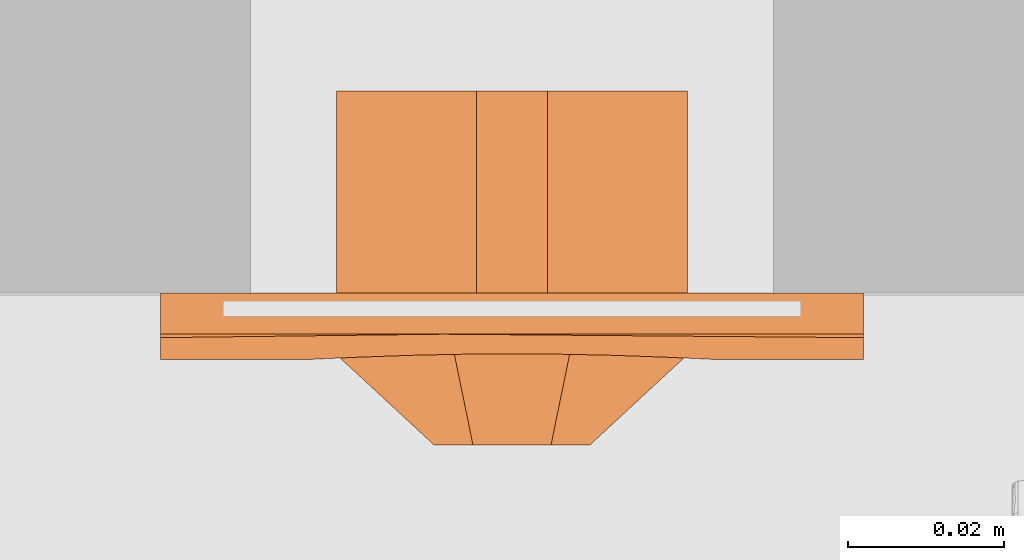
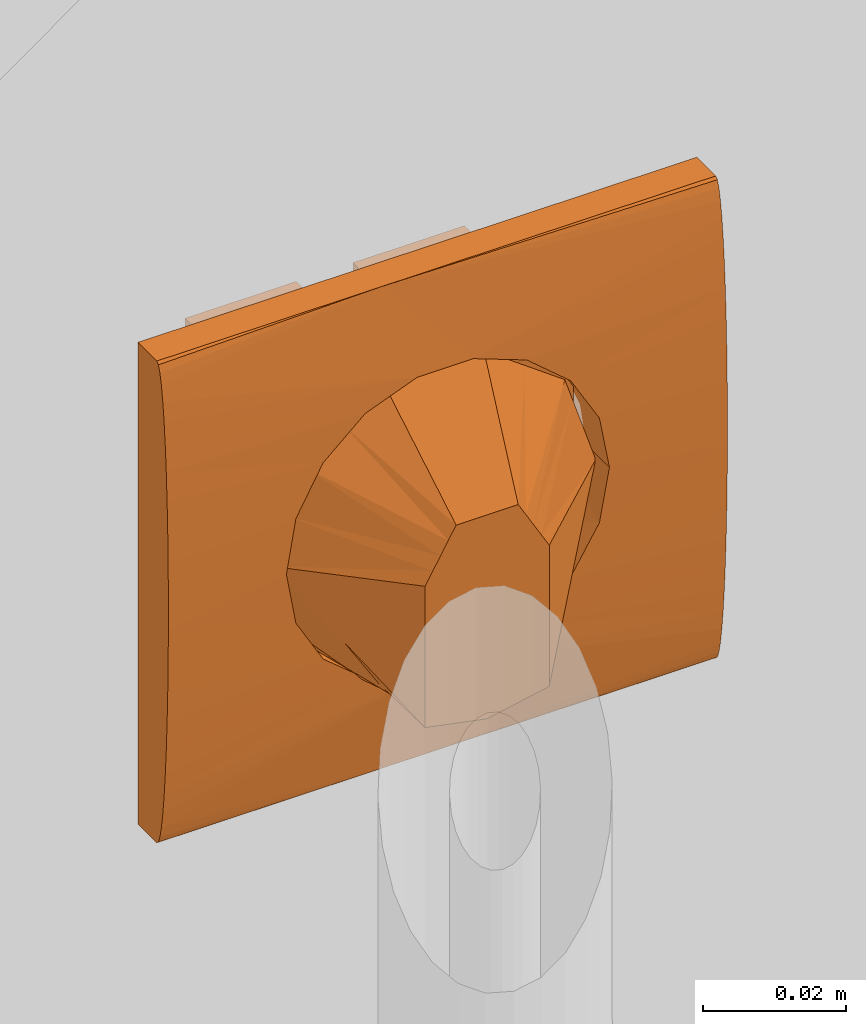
# One storey, part 8 of 8: 2 proxies.
"""IFC2X3 building model written with IfcOpenShell, lengths in metres."""

import ifcopenshell
import ifcopenshell.guid

model = None  # the IFC model being written
_history = None  # IfcOwnerHistory: only IFC2X3 demands one
_inside = {}  # id of a spatial element -> (the spatial element, [elements in it])
_under = {}  # id of a project, library or spatial element -> (it, [spatial elements below it])
_declared = {}  # id of a project -> (the project, [libraries it declares])
_typed = {}  # id of a type object -> (the type object, [elements of that type])
_made_of = {}  # id of a material, layer set ... -> (it, [elements and type objects made of it])


def new_model(schema):
    """Start an empty IFC model of exactly this schema.

    Asked for "IFC4X3", IfcOpenShell would pick the latest addendum, in which some entities
    have other attributes; the version numbers below select the first issue.
    IFC2X3 requires an IfcOwnerHistory on every rooted entity: one is made here for all.
    """
    global model, _history
    if schema == "IFC4X3":
        model = ifcopenshell.file(schema_version=(4, 3, 0, 0))
    else:
        model = ifcopenshell.file(schema=schema)
    _inside.clear()
    _under.clear()
    _declared.clear()
    _typed.clear()
    _made_of.clear()
    _history = None
    if model.schema == "IFC2X3":
        org = make("IfcOrganization", Name="unknown")
        user = make(
            "IfcPersonAndOrganization",
            ThePerson=make("IfcPerson", FamilyName="unknown"),
            TheOrganization=org,
        )
        app = make(
            "IfcApplication",
            ApplicationDeveloper=org,
            Version="unknown",
            ApplicationFullName="unknown",
            ApplicationIdentifier="unknown",
        )
        _history = make(
            "IfcOwnerHistory",
            OwningUser=user,
            OwningApplication=app,
            ChangeAction="ADDED",
            CreationDate=0,
        )
    return model


def make(cls, **values):
    """One entity of the class cls with the attributes given. An attribute that is None is left unset."""
    return model.create_entity(
        cls, **{name: value for name, value in values.items() if value is not None}
    )


def entity(cls, *values):
    """Any entity or typed value of the class cls, its attributes in the order of the schema. None: left unset."""
    e = model.create_entity(cls)
    for i, value in enumerate(values):
        if value is not None:
            e[i] = value
    return e


def rooted(cls, **values):
    """An entity with a GlobalId (a new one), such as an element, a storey or a relation."""
    return make(cls, GlobalId=ifcopenshell.guid.new(), OwnerHistory=_history, **values)


def si_unit(unit_type, name, prefix=None):
    """IfcSIUnit, for example si_unit("LENGTHUNIT", "METRE", prefix="MILLI")."""
    return make("IfcSIUnit", UnitType=unit_type, Prefix=prefix, Name=name)


def converted_unit(unit_type, name, factor, base, dimensions=None, offset=None):
    """IfcConversionBasedUnit, such as the inch: factor (a typed value) times the base unit."""
    return make(
        "IfcConversionBasedUnit"
        if offset is None
        else "IfcConversionBasedUnitWithOffset",
        ConversionOffset=offset,
        Dimensions=None
        if dimensions is None
        else entity("IfcDimensionalExponents", *dimensions),
        UnitType=unit_type,
        Name=name,
        ConversionFactor=make(
            "IfcMeasureWithUnit", ValueComponent=factor, UnitComponent=base
        ),
    )


def derived_unit(unit_type, elements):
    """IfcDerivedUnit: a product of units, each with its exponent."""
    return make(
        "IfcDerivedUnit",
        Elements=[
            make("IfcDerivedUnitElement", Unit=unit, Exponent=power)
            for unit, power in elements
        ],
        UnitType=unit_type,
    )


def assignment(units):
    """IfcUnitAssignment: the units of a project."""
    return None if units is None else make("IfcUnitAssignment", Units=units)


def point(xyz):
    """IfcCartesianPoint."""
    return None if xyz is None else make("IfcCartesianPoint", Coordinates=xyz)


def direction(xyz):
    """IfcDirection."""
    return None if xyz is None else make("IfcDirection", DirectionRatios=xyz)


def frame(location, z_axis=None, x_axis=None):
    """IfcAxis2Placement3D, a coordinate frame: its origin and axes. An axis left out is left unset."""
    return make(
        "IfcAxis2Placement3D",
        Location=point(location),
        Axis=direction(z_axis),
        RefDirection=direction(x_axis),
    )


def origin():
    """The frame at (0, 0, 0) with its axes left unset."""
    return frame((0.0, 0.0, 0.0))


def place(relative_to, where):
    """IfcLocalPlacement: puts the frame where relative to a parent placement (None: the world)."""
    return make(
        "IfcLocalPlacement", PlacementRelTo=relative_to, RelativePlacement=where
    )


def context(
    kind, dimensions, precision=None, world=None, true_north=None, identifier=None
):
    """IfcGeometricRepresentationContext, for example the 3D "Model" context."""
    return make(
        "IfcGeometricRepresentationContext",
        ContextIdentifier=identifier,
        ContextType=kind,
        CoordinateSpaceDimension=dimensions,
        Precision=precision,
        WorldCoordinateSystem=world,
        TrueNorth=true_north,
    )


def subcontext(parent, identifier, kind, view, scale=None):
    """IfcGeometricRepresentationSubContext, for example "Body" below "Model"."""
    return make(
        "IfcGeometricRepresentationSubContext",
        ContextIdentifier=identifier,
        ContextType=kind,
        ParentContext=parent,
        TargetScale=scale,
        TargetView=view,
    )


def project(units=None, contexts=None):
    """IfcProject with its units and contexts."""
    return rooted(
        "IfcProject",
        Name="project",
        RepresentationContexts=contexts,
        UnitsInContext=assignment(units),
    )


def spatial(cls, under=None, at=None, **own):
    """A site, building, storey or space (cls), placed at a placement, below another one or the project."""
    s = rooted(cls, ObjectPlacement=at, **own)
    if under is not None:
        _under.setdefault(under.id(), (under, []))[1].append(s)
    return s


def faces_of(points, faces, orient=None, outer=None):
    """IfcFace entities. A face is a list of loops; a loop is a list of indices into points, from 0.

    orient and outer hold one flag for each loop. By default every Orientation is true, the
    first loop of a face is its IfcFaceOuterBound and the others are IfcFaceBound.
    """
    made = []
    for i, loops in enumerate(faces):
        bounds = []
        for j, loop in enumerate(loops):
            is_outer = j == 0 if outer is None else outer[i][j]
            bounds.append(
                make(
                    "IfcFaceOuterBound" if is_outer else "IfcFaceBound",
                    Bound=make("IfcPolyLoop", Polygon=[points[k] for k in loop]),
                    Orientation=True if orient is None else orient[i][j],
                )
            )
        made.append(make("IfcFace", Bounds=bounds))
    return made


def faceted_brep(points, faces, orient=None, outer=None, voids=None):
    """IfcFacetedBrep: a solid bounded by flat faces; with voids (closed shells), ...WithVoids."""
    shared = [point(p) for p in points]
    hull = make("IfcClosedShell", CfsFaces=faces_of(shared, faces, orient, outer))
    if voids is None:
        return make("IfcFacetedBrep", Outer=hull)
    return make(
        "IfcFacetedBrepWithVoids",
        Outer=hull,
        Voids=[
            make(cls, CfsFaces=faces_of(shared, fs, o, b)) for cls, fs, o, b in voids
        ],
    )


def shape(context_of_items, identifier, shape_type, items):
    """IfcShapeRepresentation: the items that make up one representation, for example the "Body"."""
    return make(
        "IfcShapeRepresentation",
        ContextOfItems=context_of_items,
        RepresentationIdentifier=identifier,
        RepresentationType=shape_type,
        Items=items,
    )


def source(mapping_origin, context_of_items, identifier, shape_type, items):
    """IfcRepresentationMap: a shape defined once, which mapped items show again and again."""
    return make(
        "IfcRepresentationMap",
        MappingOrigin=mapping_origin,
        MappedRepresentation=shape(context_of_items, identifier, shape_type, items),
    )


def transform(
    local_origin,
    x_axis=None,
    y_axis=None,
    z_axis=None,
    scale=None,
    scale2=None,
    scale3=None,
    uniform=True,
):
    """IfcCartesianTransformationOperator3D, or its non-uniform kind. x_axis, y_axis, z_axis: its Axis1, 2, 3."""
    if uniform:
        return make(
            "IfcCartesianTransformationOperator3D",
            Axis1=direction(x_axis),
            Axis2=direction(y_axis),
            LocalOrigin=point(local_origin),
            Scale=scale,
            Axis3=direction(z_axis),
        )
    return make(
        "IfcCartesianTransformationOperator3DnonUniform",
        Axis1=direction(x_axis),
        Axis2=direction(y_axis),
        LocalOrigin=point(local_origin),
        Scale=scale,
        Axis3=direction(z_axis),
        Scale2=scale2,
        Scale3=scale3,
    )


def mapped(mapping_source, mapping_target):
    """IfcMappedItem: shows the shape of a source again, moved by a transform."""
    return make(
        "IfcMappedItem", MappingSource=mapping_source, MappingTarget=mapping_target
    )


def material(Name=None, Category=None):
    """IfcMaterial."""
    return make("IfcMaterial", Name=Name, Category=Category)


def material_list(materials):
    """IfcMaterialList."""
    return make("IfcMaterialList", Materials=materials)


def made_of(thing, what):
    """Note that an element or type object is made of a material, layer set ...; save() writes the relation."""
    if what is not None:
        _made_of.setdefault(what.id(), (what, []))[1].append(thing)
    return thing


def type_object(cls, material=None, **own):
    """A type object (cls), such as IfcWallType, which elements share."""
    return made_of(rooted(cls, **own), material)


def type_shapes(of_type, sources):
    """Give a type object the sources (RepresentationMaps) that its elements show as mapped items."""
    of_type.RepresentationMaps = sources


def element(
    cls,
    number,
    at=None,
    inside=None,
    cuts=None,
    type_object=None,
    material=None,
    context=None,
    identifier="Body",
    shape_type=None,
    held_by="IfcProductDefinitionShape",
    body=None,
    shapes=None,
    **own,
):
    """One element of the class cls, such as IfcWall. Its Tag is "e" and its number.

    at: its placement. inside: the storey or other place that contains it. cuts: it is an
    opening in that element (IfcRelVoidsElement). A single representation is given by context,
    identifier, shape_type and body (its items); several are given by shapes. held_by: the class
    of the entity that holds the representations. save() writes the other relations.
    """
    e = rooted(cls, Tag="e%d" % number, ObjectPlacement=at, **own)
    if body is not None:
        shapes = [shape(context, identifier, shape_type, body)]
    if shapes is not None:
        e.Representation = make(held_by, Representations=shapes)
    if inside is not None:
        _inside.setdefault(inside.id(), (inside, []))[1].append(e)
    if cuts is not None:
        rooted(
            "IfcRelVoidsElement", RelatingBuildingElement=cuts, RelatedOpeningElement=e
        )
    if type_object is not None:
        _typed.setdefault(type_object.id(), (type_object, []))[1].append(e)
    return made_of(e, material)


def aggregate(whole, parts):
    """IfcRelAggregates: a whole, such as a stair, and the parts it consists of."""
    return rooted("IfcRelAggregates", RelatingObject=whole, RelatedObjects=parts)


def save(model, path):
    """Write the relations noted so far, then the file.

    IfcRelAggregates (storeys below a building ...), IfcRelContainedInSpatialStructure (elements
    in a storey), IfcRelDefinesByType, IfcRelAssociatesMaterial and IfcRelDeclares: one each for
    every whole, place, type object, material and project.
    """
    for whole, parts in _under.values():
        aggregate(whole, parts)
    for where, things in _inside.values():
        rooted(
            "IfcRelContainedInSpatialStructure",
            RelatedElements=things,
            RelatingStructure=where,
        )
    for kind, things in _typed.values():
        rooted("IfcRelDefinesByType", RelatedObjects=things, RelatingType=kind)
    for what, things in _made_of.values():
        rooted("IfcRelAssociatesMaterial", RelatedObjects=things, RelatingMaterial=what)
    for by, libraries in _declared.values():
        rooted("IfcRelDeclares", RelatingContext=by, RelatedDefinitions=libraries)
    model.write(path)


model = new_model("IFC2X3")

# Units and contexts
model_context = context("Model", 3, precision=1e-05, world=origin(), true_north=direction((6.123031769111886e-17, 1.0)))
body_context = subcontext(model_context, "Body", "Model", "MODEL_VIEW")
ifc_project = project(units=[si_unit("LENGTHUNIT", "METRE"), si_unit("AREAUNIT", "SQUARE_METRE"), si_unit("VOLUMEUNIT", "CUBIC_METRE"), converted_unit("PLANEANGLEUNIT", "DEGREE", entity("IfcPlaneAngleMeasure", 0.017453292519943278), si_unit("PLANEANGLEUNIT", "RADIAN"), dimensions=[0, 0, 0, 0, 0, 0, 0]), si_unit("MASSUNIT", "GRAM", prefix="KILO"), derived_unit("MASSDENSITYUNIT", [(si_unit("MASSUNIT", "GRAM", prefix="KILO"), 1), (si_unit("LENGTHUNIT", "METRE"), -3)]), derived_unit("IONCONCENTRATIONUNIT", [(si_unit("MASSUNIT", "GRAM", prefix="KILO"), 1), (si_unit("LENGTHUNIT", "METRE"), -3)]), derived_unit("MOMENTOFINERTIAUNIT", [(si_unit("LENGTHUNIT", "METRE"), 4)]), si_unit("TIMEUNIT", "SECOND"), si_unit("FREQUENCYUNIT", "HERTZ"), si_unit("THERMODYNAMICTEMPERATUREUNIT", "DEGREE_CELSIUS"), derived_unit("THERMALTRANSMITTANCEUNIT", [(si_unit("MASSUNIT", "GRAM", prefix="KILO"), 1), (si_unit("THERMODYNAMICTEMPERATUREUNIT", "KELVIN"), -1), (si_unit("TIMEUNIT", "SECOND"), -3)]), derived_unit("THERMALCONDUCTANCEUNIT", [(si_unit("MASSUNIT", "GRAM", prefix="KILO"), 1), (si_unit("THERMODYNAMICTEMPERATUREUNIT", "KELVIN"), -1), (si_unit("TIMEUNIT", "SECOND"), -3), (si_unit("LENGTHUNIT", "METRE"), 1)]), derived_unit("VOLUMETRICFLOWRATEUNIT", [(si_unit("LENGTHUNIT", "METRE", prefix="DECI"), 3), (si_unit("TIMEUNIT", "SECOND"), -1)]), derived_unit("MASSFLOWRATEUNIT", [(si_unit("MASSUNIT", "GRAM", prefix="KILO"), 1), (si_unit("TIMEUNIT", "SECOND"), -1)]), derived_unit("ROTATIONALFREQUENCYUNIT", [(si_unit("TIMEUNIT", "SECOND"), -1)]), si_unit("ELECTRICCURRENTUNIT", "AMPERE"), si_unit("ELECTRICVOLTAGEUNIT", "VOLT"), si_unit("POWERUNIT", "WATT"), si_unit("FORCEUNIT", "NEWTON", prefix="KILO"), si_unit("ILLUMINANCEUNIT", "LUX"), si_unit("LUMINOUSFLUXUNIT", "LUMEN"), si_unit("LUMINOUSINTENSITYUNIT", "CANDELA"), si_unit("ENERGYUNIT", "JOULE"), derived_unit("USERDEFINED", [(si_unit("MASSUNIT", "GRAM", prefix="KILO"), -1), (si_unit("LENGTHUNIT", "METRE"), -2), (si_unit("TIMEUNIT", "SECOND"), 3), (si_unit("LUMINOUSFLUXUNIT", "LUMEN"), 1)]), derived_unit("USERDEFINED", [(si_unit("MASSUNIT", "GRAM", prefix="KILO"), 1), (si_unit("TIMEUNIT", "SECOND"), -3), (si_unit("LENGTHUNIT", "METRE"), 3), (si_unit("ELECTRICCURRENTUNIT", "AMPERE"), -2)]), derived_unit("SOUNDPOWERUNIT", [(si_unit("MASSUNIT", "GRAM", prefix="KILO"), 1), (si_unit("TIMEUNIT", "SECOND"), -3), (si_unit("LENGTHUNIT", "METRE"), 2)]), derived_unit("SOUNDPRESSUREUNIT", [(si_unit("MASSUNIT", "GRAM", prefix="KILO"), 1), (si_unit("LENGTHUNIT", "METRE"), -1), (si_unit("TIMEUNIT", "SECOND"), -2)]), derived_unit("LINEARVELOCITYUNIT", [(si_unit("LENGTHUNIT", "METRE"), 1), (si_unit("TIMEUNIT", "SECOND"), -1)]), si_unit("PRESSUREUNIT", "PASCAL"), derived_unit("USERDEFINED", [(si_unit("MASSUNIT", "GRAM", prefix="KILO"), 1), (si_unit("LENGTHUNIT", "METRE"), -2), (si_unit("TIMEUNIT", "SECOND"), -2)]), derived_unit("LINEARFORCEUNIT", [(si_unit("MASSUNIT", "GRAM", prefix="KILO"), 1), (si_unit("TIMEUNIT", "SECOND"), -2)]), derived_unit("PLANARFORCEUNIT", [(si_unit("MASSUNIT", "GRAM", prefix="KILO"), 1), (si_unit("LENGTHUNIT", "METRE"), -1), (si_unit("TIMEUNIT", "SECOND"), -2)]), derived_unit("SPECIFICHEATCAPACITYUNIT", [(si_unit("THERMODYNAMICTEMPERATUREUNIT", "KELVIN"), -1), (si_unit("LENGTHUNIT", "METRE"), 2), (si_unit("TIMEUNIT", "SECOND"), -2)]), derived_unit("HEATFLUXDENSITYUNIT", [(si_unit("MASSUNIT", "GRAM", prefix="KILO"), 1), (si_unit("TIMEUNIT", "SECOND"), -3)]), derived_unit("HEATINGVALUEUNIT", [(si_unit("LENGTHUNIT", "METRE"), 2), (si_unit("TIMEUNIT", "SECOND"), -2)]), derived_unit("VAPORPERMEABILITYUNIT", [(si_unit("LENGTHUNIT", "METRE"), -1), (si_unit("TIMEUNIT", "SECOND"), 1)]), derived_unit("DYNAMICVISCOSITYUNIT", [(si_unit("MASSUNIT", "GRAM", prefix="KILO"), 1), (si_unit("TIMEUNIT", "SECOND"), -1), (si_unit("LENGTHUNIT", "METRE"), -1)]), derived_unit("THERMALEXPANSIONCOEFFICIENTUNIT", [(si_unit("THERMODYNAMICTEMPERATUREUNIT", "KELVIN"), -1)]), derived_unit("MODULUSOFELASTICITYUNIT", [(si_unit("MASSUNIT", "GRAM", prefix="KILO"), 1), (si_unit("LENGTHUNIT", "METRE"), -1), (si_unit("TIMEUNIT", "SECOND"), -2)]), derived_unit("ISOTHERMALMOISTURECAPACITYUNIT", [(si_unit("MASSUNIT", "GRAM", prefix="KILO"), -1), (si_unit("LENGTHUNIT", "METRE"), 3)]), derived_unit("MOISTUREDIFFUSIVITYUNIT", [(si_unit("TIMEUNIT", "SECOND"), -1), (si_unit("LENGTHUNIT", "METRE"), 2)]), derived_unit("MASSPERLENGTHUNIT", [(si_unit("MASSUNIT", "GRAM", prefix="KILO"), 1), (si_unit("LENGTHUNIT", "METRE"), -1)]), derived_unit("THERMALRESISTANCEUNIT", [(si_unit("MASSUNIT", "GRAM", prefix="KILO"), -1), (si_unit("TIMEUNIT", "SECOND"), 3), (si_unit("THERMODYNAMICTEMPERATUREUNIT", "KELVIN"), 1)]), derived_unit("ACCELERATIONUNIT", [(si_unit("LENGTHUNIT", "METRE"), 1), (si_unit("TIMEUNIT", "SECOND"), -2)]), derived_unit("ANGULARVELOCITYUNIT", [(si_unit("TIMEUNIT", "SECOND"), -1), (si_unit("PLANEANGLEUNIT", "RADIAN"), 1)]), derived_unit("LINEARSTIFFNESSUNIT", [(si_unit("MASSUNIT", "GRAM", prefix="KILO"), 1), (si_unit("TIMEUNIT", "SECOND"), -2)]), derived_unit("WARPINGCONSTANTUNIT", [(si_unit("LENGTHUNIT", "METRE"), 6)]), derived_unit("LINEARMOMENTUNIT", [(si_unit("MASSUNIT", "GRAM", prefix="KILO"), 1), (si_unit("LENGTHUNIT", "METRE"), 1), (si_unit("TIMEUNIT", "SECOND"), -2)]), derived_unit("TORQUEUNIT", [(si_unit("MASSUNIT", "GRAM", prefix="KILO"), 1), (si_unit("LENGTHUNIT", "METRE"), 2), (si_unit("TIMEUNIT", "SECOND"), -2)])], contexts=[model_context])

# Site, building, storey
site_placement = place(None, origin())
site = spatial("IfcSite", under=ifc_project, at=site_placement, Name="Default", CompositionType="ELEMENT")
building_placement = place(site_placement, origin())
building = spatial("IfcBuilding", under=site, at=building_placement, CompositionType="ELEMENT")
storey_placement = place(building_placement, origin())
storey = spatial("IfcBuildingStorey", under=building, at=storey_placement, Name="Niveau 0", CompositionType="ELEMENT", Elevation=-1.949160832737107e-14)

# Proxies
ifc_material_1 = material(Name="Plastique, blanc opaque")
ifc_material_2 = material(Name="Plastique, noir opaque")
ifc_material_list = material_list([ifc_material_1, ifc_material_2])
building_element_proxy_type_1 = type_object("IfcBuildingElementProxyType", Name="Legrand Sorties de câbles:Prise courant", PredefinedType="NOTDEFINED", material=ifc_material_list)
shared_shape_1 = source(origin(), body_context, "Body", "Brep", [
    faceted_brep([(0.1312499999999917, 0.11993877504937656, -1.76746734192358), (0.1324999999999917, 0.11993877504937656, -1.769632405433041), (0.13374999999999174, 0.11993877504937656, -1.7717974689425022), (0.1349999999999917, 0.11993877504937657, -1.7739625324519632), (0.13499999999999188, 0.11993877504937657, -1.7980031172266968), (0.13257199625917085, 0.11993877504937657, -1.7984879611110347), (0.12999999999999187, 0.11993877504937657, -1.799001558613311), (0.1274999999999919, 0.11993877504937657, -1.799500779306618), (0.1262499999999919, 0.11993877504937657, -1.7997503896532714), (0.12499999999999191, 0.11993877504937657, -1.799999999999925), (0.12374999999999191, 0.11993877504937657, -1.7997503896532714), (0.12249999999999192, 0.11993877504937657, -1.799500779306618), (0.1199999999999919, 0.11993877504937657, -1.799001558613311), (0.11742800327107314, 0.11993877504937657, -1.7984879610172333), (0.11499999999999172, 0.11993877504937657, -1.7980031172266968), (0.11499999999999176, 0.11993877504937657, -1.7739625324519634), (0.11624999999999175, 0.11993877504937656, -1.7717974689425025), (0.11749999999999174, 0.11993877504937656, -1.769632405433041), (0.11874999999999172, 0.11993877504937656, -1.76746734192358), (0.11999999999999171, 0.11993877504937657, -1.765302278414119), (0.12249999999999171, 0.11993877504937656, -1.765302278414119), (0.12499999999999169, 0.11993877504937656, -1.765302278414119), (0.1274999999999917, 0.11993877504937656, -1.765302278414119), (0.1299999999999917, 0.11993877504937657, -1.765302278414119), (0.11899999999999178, 0.10509965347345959, -1.7736158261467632), (0.13100881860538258, 0.10509965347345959, -1.7736158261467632), (0.13100881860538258, 0.10509965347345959, -1.7992971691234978), (0.13543286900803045, 0.10509965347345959, -1.7971340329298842), (0.1413044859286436, 0.10509965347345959, -1.7942631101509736), (0.14486650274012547, 0.10509965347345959, -1.789792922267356), (0.14842851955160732, 0.10509965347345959, -1.785322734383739), (0.1497329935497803, 0.10509965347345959, -1.7796426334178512), (0.15103746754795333, 0.10509965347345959, -1.7739625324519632), (0.14855111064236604, 0.10509965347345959, -1.7663103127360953), (0.14606475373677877, 0.10509965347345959, -1.7586580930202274), (0.13955538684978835, 0.10509965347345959, -1.7539287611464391), (0.13304601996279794, 0.10509965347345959, -1.7491994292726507), (0.12499999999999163, 0.10509965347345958, -1.749199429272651), (0.11695398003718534, 0.10509965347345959, -1.749199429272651), (0.11044461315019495, 0.10509965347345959, -1.7539287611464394), (0.1039352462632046, 0.10509965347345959, -1.7586580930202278), (0.10269206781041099, 0.10509965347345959, -1.7624842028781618), (0.10144888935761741, 0.10509965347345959, -1.7663103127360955), (0.09896253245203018, 0.10509965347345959, -1.7739625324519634), (0.1002698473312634, 0.10509965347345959, -1.7796484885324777), (0.10157716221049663, 0.10509965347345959, -1.7853344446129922), (0.10511994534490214, 0.10509965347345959, -1.7897855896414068), (0.10866272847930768, 0.10509965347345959, -1.7942367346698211), (0.11457764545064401, 0.10509965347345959, -1.7971334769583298), (0.11899999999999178, 0.10509965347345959, -1.7992992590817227), (0.11070364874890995, 0.1159634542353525, -1.7915627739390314), (0.10640729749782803, 0.11198813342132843, -1.7851224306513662), (0.11073321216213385, 0.11467883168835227, -1.7923733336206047), (0.13100881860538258, 0.1085342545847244, -1.7991906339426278), (0.1366473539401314, 0.11098839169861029, -1.796344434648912), (0.11899999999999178, 0.10853425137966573, -1.7991930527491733), (0.1133638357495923, 0.11097206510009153, -1.7963554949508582), (0.11936587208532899, 0.11403102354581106, -1.7990939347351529), (0.11744997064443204, 0.11574866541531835, -1.7982196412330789), (0.1204105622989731, 0.11583271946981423, -1.7993660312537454), (0.1392664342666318, 0.11467932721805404, -1.7923735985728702), (0.1392963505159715, 0.11596345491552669, -1.791562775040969), (0.1435927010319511, 0.11198813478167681, -1.785122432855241), (0.10453255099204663, 0.1092614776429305, -1.7856808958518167), (0.1325405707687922, 0.11575698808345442, -1.7982239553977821), (0.1306342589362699, 0.11403066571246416, -1.799093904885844), (0.14256159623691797, 0.10975689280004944, -1.7908354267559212), (0.12200277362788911, 0.11716562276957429, -1.799728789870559), (0.1280007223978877, 0.11716360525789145, -1.799728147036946), (0.12958879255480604, 0.11583348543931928, -1.799366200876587), (0.10742241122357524, 0.10974873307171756, -1.7908181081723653), (0.11296266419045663, 0.11447366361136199, -1.7951906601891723), (0.1239564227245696, 0.11787641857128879, -1.7999679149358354), (0.13100881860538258, 0.11196786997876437, -1.7990560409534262), (0.12604238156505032, 0.11787662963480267, -1.799967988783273), (0.14546434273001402, 0.10926461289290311, -1.7856834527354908), (0.13701167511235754, 0.11449847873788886, -1.7952088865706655), (0.11899999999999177, 0.11196786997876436, -1.7990588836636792), (0.12075735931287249, 0.11621051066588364, -1.7736158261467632), (0.12199999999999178, 0.11716402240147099, -1.7736158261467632), (0.12344708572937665, 0.11776342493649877, -1.7736158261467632), (0.12499999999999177, 0.11796786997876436, -1.7736158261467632), (0.1265529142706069, 0.11776342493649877, -1.7736158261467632), (0.12799999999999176, 0.11716402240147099, -1.7736158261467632), (0.12924264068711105, 0.11621051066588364, -1.7736158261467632), (0.1301961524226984, 0.11496786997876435, -1.7736158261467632), (0.13079555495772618, 0.11352078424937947, -1.7736158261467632), (0.13100881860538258, 0.11196786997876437, -1.7736158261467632), (0.11899999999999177, 0.11196786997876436, -1.7736158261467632), (0.11920444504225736, 0.11352078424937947, -1.7736158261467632), (0.11980384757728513, 0.11496786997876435, -1.7736158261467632)], [[[0, 1, 2, 3, 4, 5, 6, 7, 8, 9, 10, 11, 12, 13, 14, 15, 16, 17, 18, 19, 20, 21, 22, 23]], [[24, 25, 26, 27, 28, 29, 30, 31, 32, 33, 34, 35, 36, 37, 38, 39, 40, 41, 42, 43, 44, 45, 46, 47, 48, 49]], [[15, 14, 50, 51, 43]], [[13, 52, 14]], [[27, 26, 53]], [[54, 27, 53]], [[55, 48, 56]], [[57, 58, 59]], [[60, 4, 61, 62]], [[43, 51, 63]], [[54, 28, 27]], [[64, 54, 65]], [[54, 66, 29]], [[59, 11, 67]], [[68, 7, 69]], [[64, 65, 69]], [[56, 46, 70]], [[12, 58, 71]], [[67, 10, 72]], [[73, 65, 54]], [[68, 8, 7]], [[55, 49, 48]], [[52, 63, 51]], [[53, 73, 54]], [[48, 47, 56]], [[74, 9, 8]], [[60, 75, 66]], [[13, 71, 52]], [[60, 76, 5]], [[45, 63, 70]], [[55, 56, 77]], [[5, 76, 6]], [[12, 71, 13]], [[67, 11, 10]], [[9, 74, 72]], [[8, 68, 74]], [[72, 10, 9]], [[57, 77, 56]], [[11, 59, 58]], [[54, 64, 76]], [[57, 56, 58]], [[6, 64, 7]], [[76, 60, 66]], [[75, 60, 62]], [[75, 32, 31, 30]], [[32, 75, 62]], [[52, 51, 50, 14]], [[75, 30, 66]], [[29, 28, 54]], [[54, 76, 66]], [[66, 30, 29]], [[70, 63, 52]], [[70, 52, 71]], [[63, 45, 44, 43]], [[71, 56, 70]], [[7, 64, 69]], [[46, 56, 47]], [[46, 45, 70]], [[76, 64, 6]], [[71, 58, 56]], [[11, 58, 12]], [[4, 60, 5]], [[3, 32, 62, 61, 4]], [[35, 0, 23]], [[34, 0, 35]], [[1, 34, 33]], [[34, 1, 0]], [[33, 2, 1]], [[39, 18, 40]], [[36, 23, 22, 21, 20, 19, 38, 37]], [[19, 39, 38]], [[43, 16, 15]], [[3, 2, 32]], [[18, 39, 19]], [[16, 43, 42, 41]], [[32, 2, 33]], [[17, 41, 40]], [[23, 36, 35]], [[16, 41, 17]], [[17, 40, 18]], [[78, 79, 80, 81, 82, 83, 84, 85, 86, 87, 25, 24, 88, 89, 90]], [[86, 65, 73]], [[68, 69, 83]], [[74, 68, 82]], [[85, 69, 65]], [[86, 85, 65]], [[73, 87, 86]], [[84, 83, 69]], [[69, 85, 84]], [[83, 82, 68]], [[82, 81, 74]], [[72, 80, 67]], [[67, 79, 59]], [[77, 57, 89]], [[90, 57, 59]], [[88, 77, 89]], [[80, 79, 67]], [[72, 81, 80]], [[78, 90, 59]], [[59, 79, 78]], [[90, 89, 57]], [[74, 81, 72]], [[55, 77, 88, 24, 49]], [[53, 26, 25, 87, 73]]]),
    faceted_brep([(0.1295689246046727, 0.0746, -1.7514625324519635), (0.1295689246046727, 0.0746, -1.7585551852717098), (0.13100881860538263, 0.0746, -1.7599950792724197), (0.13100881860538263, 0.0746, -1.7832874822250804), (0.12499999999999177, 0.0746, -1.7832874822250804), (0.11899118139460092, 0.0746, -1.7832874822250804), (0.11899118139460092, 0.0746, -1.7599950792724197), (0.12043107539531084, 0.0746, -1.7585551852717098), (0.12043107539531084, 0.0746, -1.7514625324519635), (0.10249999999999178, 0.0746, -1.7514625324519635), (0.10249999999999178, 0.0746, -1.7964625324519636), (0.14749999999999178, 0.0746, -1.7964625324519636), (0.14749999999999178, 0.0746, -1.7514625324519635), (0.1295689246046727, 0.10509965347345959, -1.7514625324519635), (0.14749999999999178, 0.10509965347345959, -1.7514625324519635), (0.14749999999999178, 0.10509965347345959, -1.7964625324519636), (0.10249999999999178, 0.10509965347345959, -1.7964625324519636), (0.10249999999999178, 0.10509965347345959, -1.7514625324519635), (0.12043107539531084, 0.10509965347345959, -1.7514625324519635), (0.12043107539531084, 0.10509965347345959, -1.7585551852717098), (0.11899118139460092, 0.10509965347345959, -1.7599950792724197), (0.11899118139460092, 0.10509965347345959, -1.7832874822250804), (0.12499999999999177, 0.10509965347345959, -1.7832874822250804), (0.13100881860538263, 0.10509965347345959, -1.7832874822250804), (0.13100881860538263, 0.10509965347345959, -1.7599950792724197), (0.1295689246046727, 0.10509965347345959, -1.7585551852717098)], [[[0, 1, 2, 3, 4, 5, 6, 7, 8, 9, 10, 11, 12]], [[13, 14, 15, 16, 17, 18, 19, 20, 21, 22, 23, 24, 25]], [[10, 9, 17, 16]], [[11, 10, 16, 15]], [[12, 11, 15, 14]], [[0, 12, 14, 13]], [[1, 0, 13, 25]], [[2, 1, 25, 24]], [[3, 2, 24, 23]], [[4, 3, 23, 22]], [[5, 4, 22, 21]], [[6, 5, 21, 20]], [[7, 6, 20, 19]], [[8, 7, 19, 18]], [[9, 8, 18, 17]]]),
])
type_shapes(building_element_proxy_type_1, [shared_shape_1])
proxy_1_placement = place(storey_placement, frame((-8.558577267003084, 2.950026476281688, 3.8239625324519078), z_axis=(0.0, 0.0, 1.0), x_axis=(-1.0, 0.0, 0.0)))
element("IfcBuildingElementProxy", 1, at=proxy_1_placement, inside=storey, type_object=building_element_proxy_type_1, material=ifc_material_list, Name="Legrand Sorties de câbles:Prise courant", ObjectType="Legrand Sorties de câbles:Prise courant", context=body_context, shape_type="MappedRepresentation", body=[
    mapped(shared_shape_1, transform((0.0, 0.0, 0.0), scale=1.0)),
])
building_element_proxy_type_2 = type_object("IfcBuildingElementProxyType", Name="Legrand plaque2:1 poste", PredefinedType="NOTDEFINED", material=ifc_material_1)
shared_shape_2 = source(origin(), body_context, "Body", "Brep", [
    faceted_brep([(0.1699999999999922, 0.10663792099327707, -1.797231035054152), (0.1699999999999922, 0.10705393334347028, -1.7953570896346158), (0.1699999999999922, 0.10744593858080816, -1.7927826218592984), (0.1699999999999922, 0.10780663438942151, -1.7895555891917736), (0.1699999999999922, 0.10812930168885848, -1.785736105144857), (0.1699999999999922, 0.1084079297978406, -1.781395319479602), (0.1699999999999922, 0.10863732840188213, -1.7766140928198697), (0.1699999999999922, 0.10881322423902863, -1.7714814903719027), (0.1699999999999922, 0.10893234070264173, -1.7660931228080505), (0.1699999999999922, 0.10899245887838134, -1.7605493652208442), (0.1699999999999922, 0.10899245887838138, -1.754953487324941), (0.1699999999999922, 0.10893234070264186, -1.7494097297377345), (0.1699999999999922, 0.10881322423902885, -1.7440213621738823), (0.1699999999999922, 0.10863732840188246, -1.7388887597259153), (0.1699999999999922, 0.108407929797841, -1.734107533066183), (0.1699999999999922, 0.10812930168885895, -1.7297667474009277), (0.1699999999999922, 0.10780663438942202, -1.7259472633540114), (0.1699999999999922, 0.10744593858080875, -1.7227202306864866), (0.1699999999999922, 0.10705393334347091, -1.7201457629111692), (0.1699999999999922, 0.10663792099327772, -1.718271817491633), (0.1699999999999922, 0.10620565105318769, -1.717133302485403), (0.1699999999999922, 0.10576517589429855, -1.7167514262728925), (0.1699999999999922, 0.10050000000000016, -1.7167514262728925), (0.1699999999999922, 0.10050000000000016, -1.7987514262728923), (0.1699999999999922, 0.10576517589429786, -1.7987514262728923), (0.1699999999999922, 0.10620565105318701, -1.7983695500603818), (0.07999999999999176, 0.10893234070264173, -1.7660931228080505), (0.07999999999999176, 0.10881322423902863, -1.7714814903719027), (0.07999999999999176, 0.10863732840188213, -1.7766140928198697), (0.07999999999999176, 0.1084079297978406, -1.781395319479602), (0.07999999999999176, 0.10812930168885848, -1.785736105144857), (0.07999999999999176, 0.10780663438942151, -1.7895555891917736), (0.07999999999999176, 0.10744593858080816, -1.7927826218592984), (0.07999999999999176, 0.10705393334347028, -1.7953570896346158), (0.07999999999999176, 0.10663792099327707, -1.797231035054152), (0.07999999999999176, 0.10620565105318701, -1.7983695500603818), (0.07999999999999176, 0.10576517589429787, -1.7987514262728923), (0.07999999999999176, 0.10050000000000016, -1.7987514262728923), (0.07999999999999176, 0.10050000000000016, -1.7167514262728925), (0.07999999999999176, 0.10576517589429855, -1.7167514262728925), (0.07999999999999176, 0.10620565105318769, -1.717133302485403), (0.07999999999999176, 0.10663792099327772, -1.718271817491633), (0.07999999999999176, 0.10705393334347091, -1.7201457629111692), (0.07999999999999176, 0.10744593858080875, -1.7227202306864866), (0.07999999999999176, 0.10780663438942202, -1.7259472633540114), (0.07999999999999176, 0.10812930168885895, -1.7297667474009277), (0.07999999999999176, 0.108407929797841, -1.734107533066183), (0.07999999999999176, 0.10863732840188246, -1.7388887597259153), (0.07999999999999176, 0.10881322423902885, -1.7440213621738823), (0.07999999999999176, 0.10893234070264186, -1.7494097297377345), (0.07999999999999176, 0.10899245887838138, -1.754953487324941), (0.07999999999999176, 0.10899245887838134, -1.7605493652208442), (0.13383419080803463, 0.10576517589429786, -1.7987514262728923), (0.1295157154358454, 0.10829163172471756, -1.7833562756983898), (0.12048889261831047, 0.10829158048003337, -1.7833570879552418), (0.1338341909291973, 0.10576517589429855, -1.7167514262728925), (0.13799797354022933, 0.10846845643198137, -1.7802692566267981), (0.14491763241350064, 0.10871907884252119, -1.7744633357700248), (0.14942915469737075, 0.10892286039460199, -1.7666517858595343), (0.14145780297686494, 0.10859376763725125, -1.7773662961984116), (0.15021457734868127, 0.10896143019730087, -1.7622016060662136), (0.15099999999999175, 0.10899999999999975, -1.7577514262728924), (0.11200101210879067, 0.10846848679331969, -1.780268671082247), (0.11624495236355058, 0.10838003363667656, -1.7818128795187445), (0.10057214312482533, 0.10892279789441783, -1.7666553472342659), (0.10509052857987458, 0.1087187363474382, -1.7744730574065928), (0.09899999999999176, 0.10899999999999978, -1.7577514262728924), (0.09978607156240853, 0.1089613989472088, -1.7622033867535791), (0.14942915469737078, 0.10892286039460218, -1.7488510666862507), (0.14491763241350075, 0.10871907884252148, -1.7410395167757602), (0.14145780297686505, 0.10859376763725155, -1.7381365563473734), (0.1379979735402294, 0.10846845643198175, -1.7352335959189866), (0.12951571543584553, 0.10829163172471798, -1.7321465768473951), (0.1005721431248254, 0.10892279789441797, -1.7488475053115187), (0.09978607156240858, 0.10896139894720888, -1.7532994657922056), (0.10509052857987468, 0.10871873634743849, -1.7410297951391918), (0.1120010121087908, 0.10846848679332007, -1.7352341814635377), (0.12048889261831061, 0.10829158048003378, -1.7321457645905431), (0.11624495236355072, 0.10838003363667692, -1.7336899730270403), (0.15021457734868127, 0.10896143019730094, -1.7533012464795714), (0.14751666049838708, 0.10050000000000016, -1.7447514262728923), (0.1501140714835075, 0.10050000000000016, -1.7510221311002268), (0.1433847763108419, 0.10050000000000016, -1.739366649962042), (0.15099999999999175, 0.10050000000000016, -1.7577514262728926), (0.13799999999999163, 0.10050000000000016, -1.735234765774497), (0.13172929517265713, 0.10050000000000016, -1.7326373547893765), (0.12499999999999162, 0.10050000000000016, -1.7317514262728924), (0.11827070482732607, 0.10050000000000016, -1.7326373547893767), (0.11199999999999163, 0.10050000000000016, -1.735234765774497), (0.10661522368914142, 0.10050000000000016, -1.7393666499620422), (0.10248333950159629, 0.10050000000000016, -1.7447514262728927), (0.09988592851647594, 0.10050000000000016, -1.7510221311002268), (0.09899999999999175, 0.10050000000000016, -1.7577514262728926), (0.09988592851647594, 0.10050000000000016, -1.7644807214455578), (0.10248333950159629, 0.10050000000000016, -1.7707514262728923), (0.10661522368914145, 0.10050000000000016, -1.7761362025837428), (0.11199999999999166, 0.10050000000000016, -1.7802680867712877), (0.11827070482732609, 0.10050000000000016, -1.7828654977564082), (0.12499999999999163, 0.10050000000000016, -1.7837514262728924), (0.1501140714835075, 0.10050000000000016, -1.7644807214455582), (0.1475166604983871, 0.10050000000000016, -1.7707514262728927), (0.1433847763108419, 0.10050000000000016, -1.7761362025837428), (0.13799999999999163, 0.10050000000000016, -1.780268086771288), (0.1317292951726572, 0.10050000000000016, -1.7828654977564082)], [[[0, 1, 2, 3, 4, 5, 6, 7, 8, 9, 10, 11, 12, 13, 14, 15, 16, 17, 18, 19, 20, 21, 22, 23, 24, 25]], [[26, 27, 28, 29, 30, 31, 32, 33, 34, 35, 36, 37, 38, 39, 40, 41, 42, 43, 44, 45, 46, 47, 48, 49, 50, 51]], [[24, 23, 37, 36, 52]], [[0, 52, 1]], [[53, 1, 52]], [[54, 53, 52]], [[3, 2, 53]], [[55, 42, 41]], [[56, 5, 4]], [[56, 4, 3]], [[1, 53, 2]], [[7, 6, 57]], [[8, 7, 58]], [[9, 8, 58]], [[5, 56, 59, 57]], [[9, 58, 60, 61]], [[58, 7, 57]], [[61, 10, 9]], [[6, 5, 57]], [[3, 53, 56]], [[55, 21, 20]], [[39, 55, 40]], [[54, 32, 31]], [[31, 62, 63, 54]], [[30, 62, 31]], [[54, 33, 32]], [[52, 36, 35]], [[52, 25, 24]], [[35, 34, 52]], [[52, 34, 33]], [[0, 25, 52]], [[30, 29, 62]], [[27, 64, 65]], [[29, 65, 62]], [[65, 29, 28]], [[27, 26, 64]], [[65, 28, 27]], [[64, 26, 51]], [[51, 66, 67, 64]], [[33, 54, 52]], [[12, 11, 68]], [[13, 12, 69]], [[14, 13, 69]], [[68, 11, 10]], [[69, 12, 68]], [[14, 69, 70, 71]], [[71, 15, 14]], [[19, 55, 20]], [[18, 17, 72]], [[41, 40, 55]], [[72, 16, 71]], [[15, 71, 16]], [[72, 17, 16]], [[19, 18, 55]], [[50, 73, 74, 66]], [[46, 75, 47]], [[48, 75, 73]], [[49, 73, 50]], [[48, 73, 49]], [[48, 47, 75]], [[46, 76, 75]], [[51, 50, 66]], [[46, 45, 76]], [[44, 77, 78, 76]], [[44, 76, 45]], [[44, 43, 77]], [[72, 77, 55]], [[43, 42, 77]], [[18, 72, 55]], [[55, 77, 42]], [[10, 61, 79, 68]], [[22, 21, 55, 39, 38]], [[22, 80, 81]], [[80, 22, 82]], [[22, 81, 83]], [[84, 82, 22]], [[85, 84, 22]], [[86, 85, 22]], [[22, 38, 86]], [[83, 23, 22]], [[87, 86, 38]], [[88, 87, 38]], [[89, 88, 38]], [[38, 90, 89]], [[90, 38, 91]], [[92, 91, 38]], [[38, 37, 92]], [[93, 92, 37]], [[94, 93, 37]], [[37, 95, 94]], [[95, 37, 96]], [[97, 96, 37]], [[98, 97, 37]], [[98, 37, 23]], [[23, 83, 99]], [[23, 99, 100]], [[100, 101, 23]], [[101, 102, 23]], [[102, 103, 23]], [[23, 103, 98]], [[93, 64, 67]], [[93, 67, 92]], [[97, 54, 63]], [[97, 63, 96]], [[65, 64, 94]], [[83, 61, 60]], [[62, 65, 95]], [[93, 94, 64]], [[92, 67, 66]], [[95, 96, 62]], [[65, 94, 95]], [[56, 102, 59]], [[97, 98, 54]], [[62, 96, 63]], [[101, 57, 59]], [[101, 59, 102]], [[56, 53, 103]], [[60, 58, 99]], [[100, 58, 57]], [[103, 102, 56]], [[53, 98, 103]], [[101, 100, 57]], [[99, 83, 60]], [[100, 99, 58]], [[54, 98, 53]], [[81, 68, 79]], [[70, 69, 82]], [[91, 92, 74]], [[85, 72, 71]], [[69, 68, 80]], [[70, 84, 71]], [[81, 80, 68]], [[83, 79, 61]], [[84, 70, 82]], [[69, 80, 82]], [[84, 85, 71]], [[85, 86, 72]], [[81, 79, 83]], [[78, 77, 87]], [[75, 76, 89]], [[78, 88, 76]], [[74, 73, 91]], [[90, 73, 75]], [[92, 66, 74]], [[88, 78, 87]], [[77, 86, 87]], [[89, 90, 75]], [[76, 88, 89]], [[90, 91, 73]], [[72, 86, 77]]]),
])
type_shapes(building_element_proxy_type_2, [shared_shape_2])
proxy_2_placement = place(storey_placement, frame((-8.558577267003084, 2.950026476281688, 3.808751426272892), z_axis=(0.0, 0.0, 1.0), x_axis=(-1.0, 0.0, 0.0)))
element("IfcBuildingElementProxy", 2, at=proxy_2_placement, inside=storey, type_object=building_element_proxy_type_2, material=ifc_material_1, Name="Legrand plaque2:1 poste", ObjectType="Legrand plaque2:1 poste", context=body_context, shape_type="MappedRepresentation", body=[
    mapped(shared_shape_2, transform((0.0, 0.0, 0.0), scale=1.0)),
])

save(model, "model.ifc")
